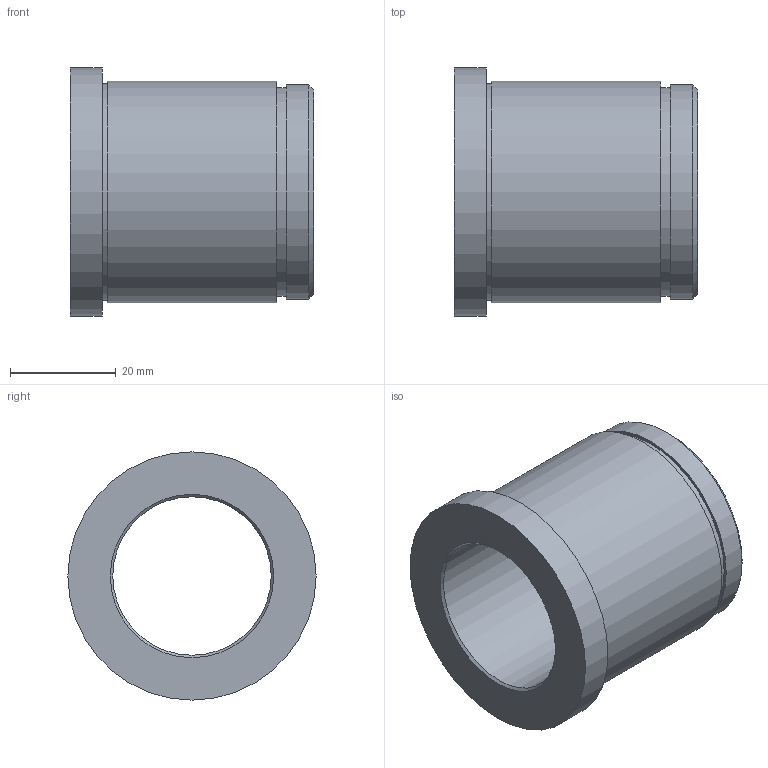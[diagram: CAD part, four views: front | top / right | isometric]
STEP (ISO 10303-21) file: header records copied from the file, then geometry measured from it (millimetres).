
FILE_DESCRIPTION(/* description */ ('Impex Ready, www.impex-ready.pl'),/* implementation_level */ '2;1');
FILE_NAME(/* name */ 'C:\Users\VIKKY\Nextcloud\SM\projekt 10 - części na stronę internetową\Pliki_3D_new\307 Tuleje BG05\307 BG05_STEP\BG05.030046.ipt.step',/* time_stamp */ '2021-12-21T17:23:02+01:00',/* author */ ('SM'),/* organization */ (''),/* preprocessor_version */ 'ST-DEVELOPER v18.1',/* originating_system */ 'Autodesk Inventor 2021',/* authorisation */ '');
FILE_SCHEMA (('AUTOMOTIVE_DESIGN { 1 0 10303 214 3 1 1 }'));
Length unit declared in the file: millimetre
Products named in the file (1): BG05.030046
Bounding box: 46 x 47 x 47 mm (x, y, z)
Volume: 32409 mm3; surface area: 12663.4 mm2
Topology: 1 solids, 1 shells, 15 faces, 27 edges, 18 vertices
Faces by surface type: cylinder 6, plane 6, cone 3
Full cylindrical faces by diameter (mm): 30 x1, 39.5 x1, 40.6 x1, 41 x1, 42 x1, 47 x1
Entity records: 457 total; most frequent: DIRECTION 77, CARTESIAN_POINT 61, ORIENTED_EDGE 54, AXIS2_PLACEMENT_3D 34, EDGE_CURVE 27, EDGE_LOOP 21, CIRCLE 18, VERTEX_POINT 18
